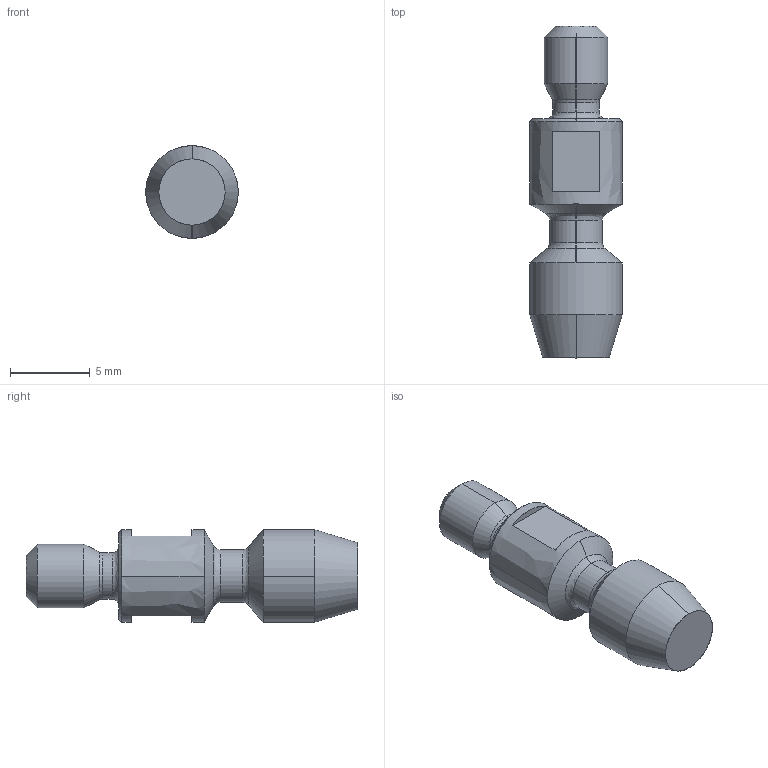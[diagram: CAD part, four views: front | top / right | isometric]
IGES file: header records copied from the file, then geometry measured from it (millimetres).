
Start section: SolidWorks IGES file using analytic representation for surfaces
Global section: file name: E:\新製品_作業用\14_SW2024(ver2024)\08_2026_08_31新製品(SSR)\@データ\qmcfc0615-m4-sus\QMCFC0615-M4-SUS.igs; native system: SolidWorks 2024; preprocessor: SolidWorks 2024; author: ykomura; date: 260805.112310; units: millimetre
Bounding box: 5.8 x 20.8 x 5.8 mm (x, y, z)
Surface area: 371.2 mm2 (no closed solid volume)
Topology: 0 solids, 0 shells, 39 faces, 300 edges, 300 vertices
Faces by surface type: revolution 22, bspline 17
